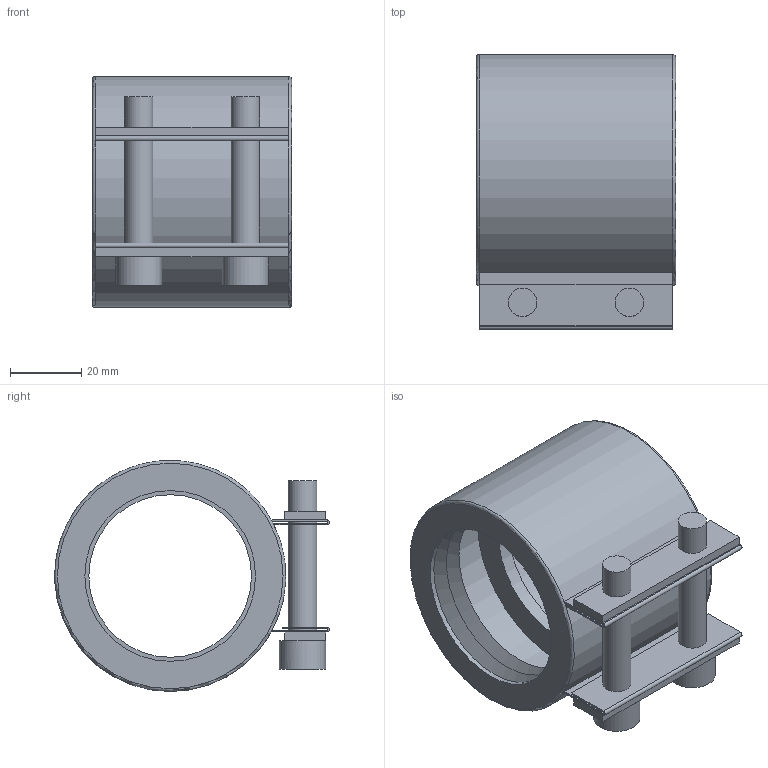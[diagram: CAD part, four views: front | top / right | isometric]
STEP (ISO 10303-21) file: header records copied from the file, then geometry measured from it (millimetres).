
FILE_DESCRIPTION( ( 'STEP AP214' ), '1' );
FILE_NAME( 'C:/Users/ilukic/Documents/ex/gebaudeentwasserung/pe/Geberit adapter clamping connector/359424.stp', '2020-03-26T18:41:12', ( '' ), ( '' ), ' ', 'PARTsolutions', ' ' );
FILE_SCHEMA( ( 'AUTOMOTIVE_DESIGN { 1 0 10303 214 1 1 1 1 }' ) );
Length unit declared in the file: millimetre
Products named in the file (1): _359424
Bounding box: 56 x 77.23 x 64.98 mm (x, y, z)
Volume: 46072.6 mm3; surface area: 47992.5 mm2
Topology: 1 solids, 1 shells, 83 faces, 193 edges, 128 vertices
Faces by surface type: plane 57, cylinder 20, cone 4, torus 2
Full cylindrical faces by diameter (mm): 8 x8, 13 x2, 45.714 x1, 48 x2, 62.38 x2
Entity records: 2858 total; most frequent: DIRECTION 384, CARTESIAN_POINT 360, ORIENTED_EDGE 320, EDGE_CURVE 160, AXIS2_PLACEMENT_3D 140, EDGE_LOOP 132, VERTEX_POINT 116, LINE 104
